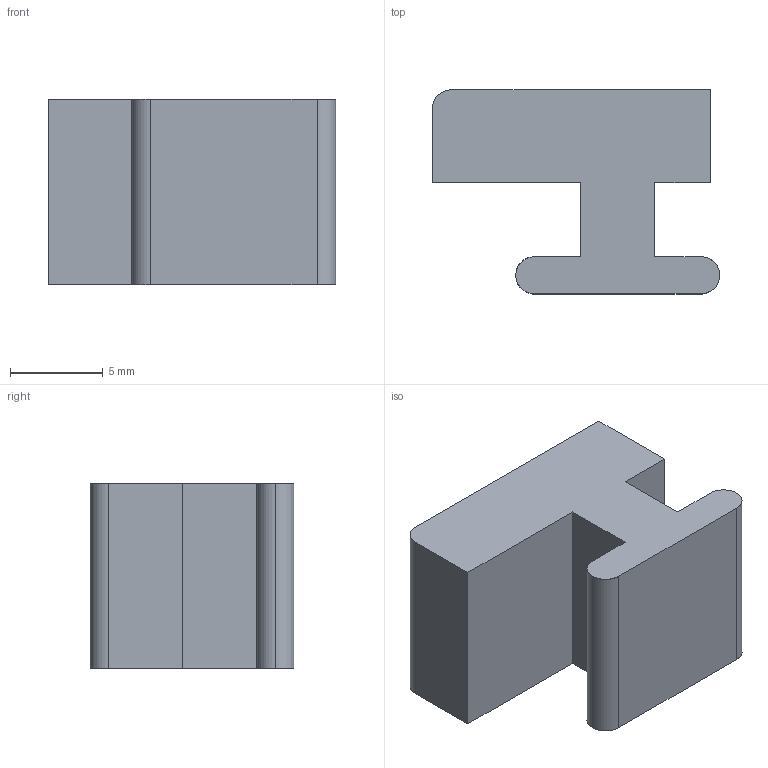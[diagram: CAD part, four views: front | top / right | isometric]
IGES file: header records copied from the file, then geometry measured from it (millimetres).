
Start section: SolidWorks IGES file using analytic representation for surfaces
Global section: file name: C:\Documents and Settings\URETIM3\Desktop\yeni katalog tolgay düzenli\E kataloðu\YARIM T PROFÝL ALPOLEN 1000\206 YT1 002.IGS; native system: SolidWorks 2006 by SolidWorks Corporation; preprocessor: SolidWorks 2006 by SolidWorks Corporation; author: URETIM3; date: 060912.154218; units: millimetre
Bounding box: 15.5 x 11 x 10 mm (x, y, z)
Surface area: 862.4 mm2 (no closed solid volume)
Topology: 0 solids, 0 shells, 16 faces, 156 edges, 156 vertices
Faces by surface type: bspline 12, revolution 4
